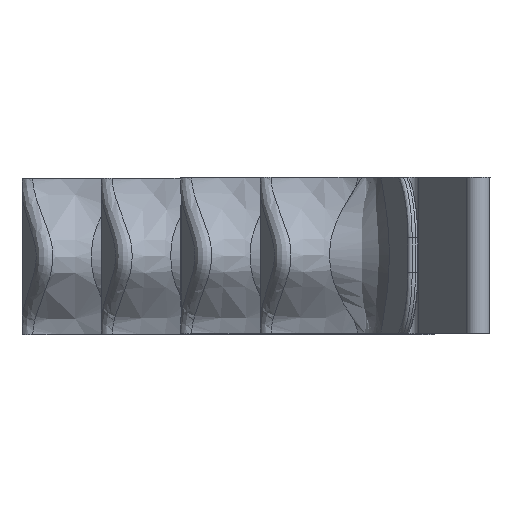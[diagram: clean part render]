
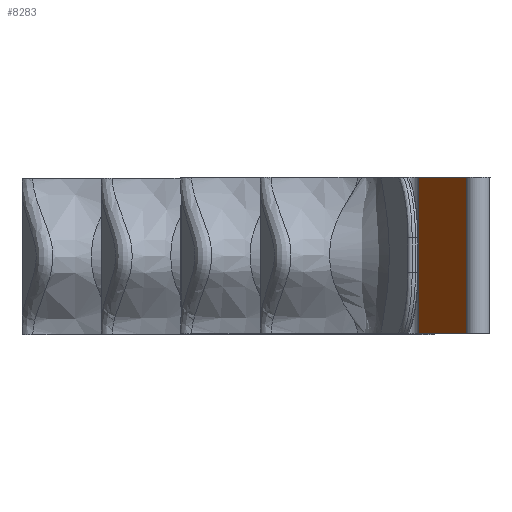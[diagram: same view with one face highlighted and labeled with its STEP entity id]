
A CAD part, top view. The second image highlights one B-rep face of the part: STEP entity #8283.
In plain terms, the highlighted planar face has unit normal (-0.952, 0, 0.305).
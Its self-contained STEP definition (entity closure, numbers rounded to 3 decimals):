
#1016=FACE_OUTER_BOUND('',#1476,.T.);
#1476=EDGE_LOOP('',(#7698,#7699,#7700,#7701));
#1978=LINE('',#9398,#2504);
#2041=LINE('',#10101,#2567);
#2492=LINE('',#18403,#3018);
#2498=LINE('',#21695,#3024);
#2504=VECTOR('',#8502,10.);
#2567=VECTOR('',#8643,10.);
#3018=VECTOR('',#9334,10.);
#3024=VECTOR('',#9350,10.);
#3093=VERTEX_POINT('',#9395);
#3094=VERTEX_POINT('',#9397);
#3239=VERTEX_POINT('',#10098);
#3240=VERTEX_POINT('',#10100);
#3937=EDGE_CURVE('',#3093,#3094,#1978,.T.);
#4085=EDGE_CURVE('',#3239,#3240,#2041,.T.);
#5117=EDGE_CURVE('',#3240,#3093,#2492,.T.);
#5202=EDGE_CURVE('',#3094,#3239,#2498,.T.);
#7698=ORIENTED_EDGE('',*,*,#5117,.F.);
#7699=ORIENTED_EDGE('',*,*,#4085,.F.);
#7700=ORIENTED_EDGE('',*,*,#5202,.F.);
#7701=ORIENTED_EDGE('',*,*,#3937,.F.);
#7838=PLANE('',#8481);
#8283=ADVANCED_FACE('',(#1016),#7838,.T.);
#8481=AXIS2_PLACEMENT_3D('',#21813,#9366,#9367);
#8502=DIRECTION('',(-0.305,0.,-0.952));
#8643=DIRECTION('',(0.305,0.,0.952));
#9334=DIRECTION('',(0.,-1.,0.));
#9350=DIRECTION('',(0.,1.,0.));
#9366=DIRECTION('center_axis',(-0.952,0.,0.305));
#9367=DIRECTION('ref_axis',(0.305,0.,0.952));
#9395=CARTESIAN_POINT('',(90.819,-22.5,291.243));
#9397=CARTESIAN_POINT('',(76.943,-22.5,247.966));
#9398=CARTESIAN_POINT('',(91.599,-22.5,293.674));
#10098=CARTESIAN_POINT('',(76.943,22.5,247.966));
#10100=CARTESIAN_POINT('',(90.819,22.5,291.243));
#10101=CARTESIAN_POINT('',(91.599,22.5,293.674));
#18403=CARTESIAN_POINT('',(90.819,0.,291.243));
#21695=CARTESIAN_POINT('',(76.943,-11.25,247.966));
#21813=CARTESIAN_POINT('Origin',(0.,0.,8.));
